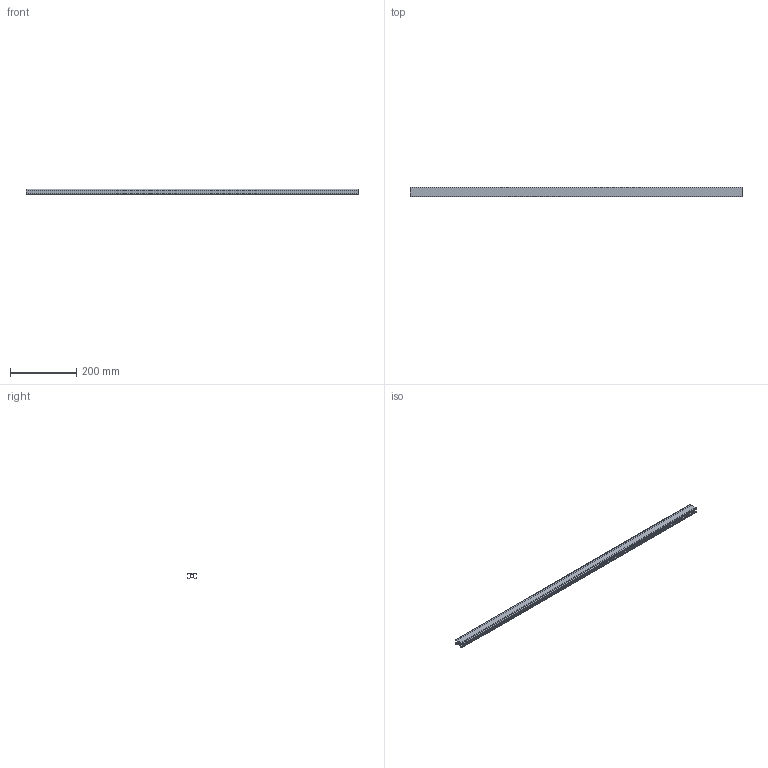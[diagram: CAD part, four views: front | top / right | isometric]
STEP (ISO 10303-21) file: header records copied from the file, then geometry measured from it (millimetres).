
FILE_DESCRIPTION (( 'STEP AP214' ), '1' );
FILE_NAME ('1.0176 16X30 musta 1000mm.STEP', '2026-03-13T06:24:08', ( '' ), ( '' ), 'SwSTEP 2.0', 'SolidWorks 2025', '' );
FILE_SCHEMA (( 'AUTOMOTIVE_DESIGN' ));
Length unit declared in the file: millimetre
Products named in the file (1): 1.0176 16X30 musta 1000mm
Bounding box: 1000 x 30 x 16 mm (x, y, z)
Volume: 160692.7 mm3; surface area: 175192.7 mm2
Topology: 1 solids, 1 shells, 87 faces, 255 edges, 170 vertices
Faces by surface type: plane 46, cylinder 41
Entity records: 2938 total; most frequent: DIRECTION 513, CARTESIAN_POINT 513, ORIENTED_EDGE 510, EDGE_CURVE 255, VECTOR 173, LINE 173, VERTEX_POINT 170, AXIS2_PLACEMENT_3D 170
